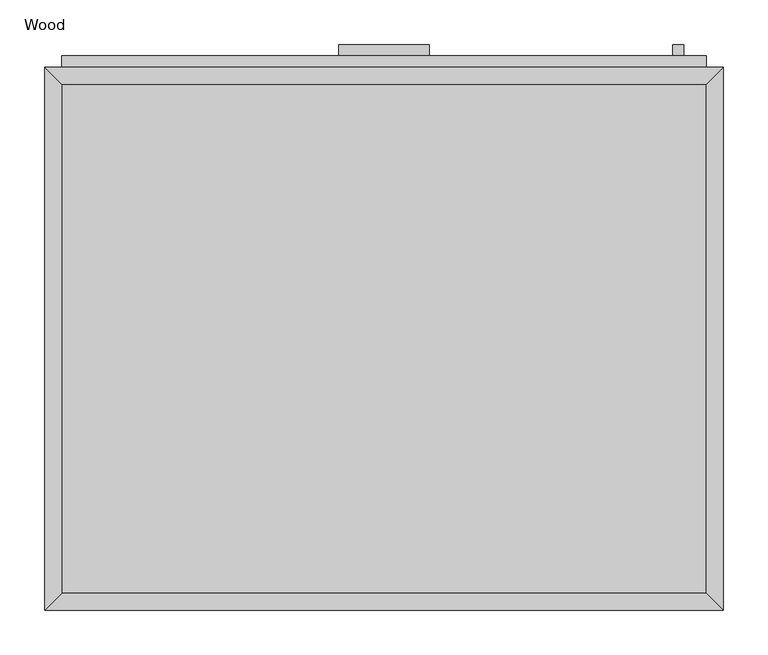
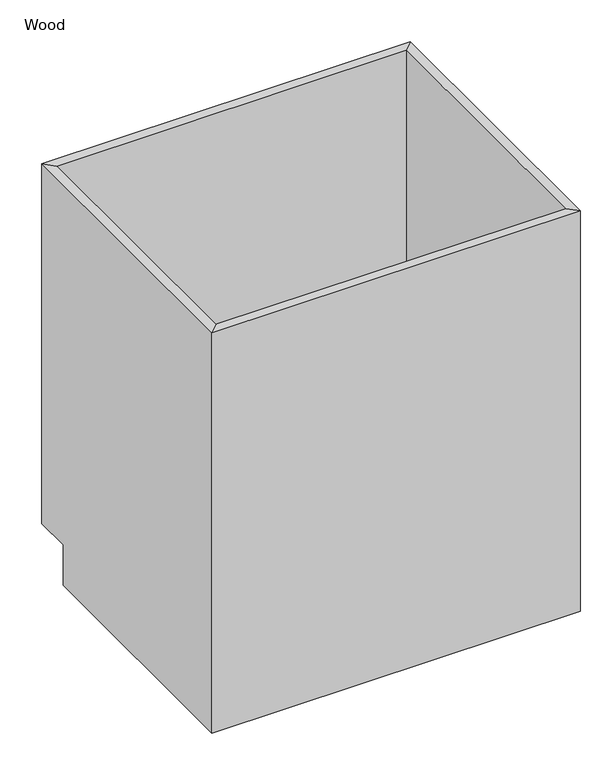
"""IFC4 building model written with IfcOpenShell, lengths in millimetres: furniture geometry, Base Cabinet-Single Door & Drawer : Wood."""

from ifc_helpers import new_model, si_unit, frame, origin, place, context, project, spatial, polyline, outline, extrude, faceted_brep, source, transform, mapped, element, save


def wood_c3b25c64(model_context):
    return source(origin(), model_context, "Body", "SolidModel", [
        faceted_brep([(380.6877049, 590.55, 876.3), (-343.2122951, 590.55, 876.3), (-343.2122951, 590.55, 88.9), (380.6877049, 590.55, 88.9), (399.7377049, 609.6, 876.3), (-362.2622951, 609.6, 876.3), (399.7377049, 609.6, 88.9), (-362.2622951, 609.6, 88.9), (-343.2122951, 19.05, 876.3), (-343.2122951, 19.05, 88.9), (-343.2122951, 533.4, 88.9), (-362.2622951, 0.0, 876.3), (-362.2622951, 533.4, 88.9), (-362.2622951, 533.4, 0.0), (-362.2622951, 0.0, 0.0), (380.6877049, 19.05, 876.3), (380.6877049, 19.05, 88.9), (399.7377049, 0.0, 876.3), (399.7377049, 0.0, 0.0), (380.6877049, 533.4, 88.9), (399.7377049, 533.4, 0.0), (399.7377049, 533.4, 88.9)], [[[0, 1, 2, 3]], [[0, 4, 5, 1]], [[4, 6, 7, 5]], [[2, 7, 6, 3]], [[1, 8, 9, 10, 2]], [[5, 11, 8, 1]], [[7, 12, 13, 14, 11, 5]], [[2, 10, 12, 7]], [[8, 15, 16, 9]], [[11, 17, 15, 8]], [[14, 18, 17, 11]], [[3, 19, 16, 15, 0]], [[0, 15, 17, 4]], [[4, 17, 18, 20, 21, 6]], [[6, 21, 19, 3]], [[10, 9, 16, 19]], [[18, 14, 13, 20]], [[13, 12, 10, 19, 21, 20]]]),
        extrude(outline(polyline([(355.2877049, 635.0), (355.2877049, 622.3), (342.5877049, 622.3), (342.5877049, 635.0), (355.2877049, 635.0)])), frame((0.0, 0.0, 596.9), z_axis=(0.0, 0.0, 1.0), x_axis=(1.0, 0.0, 0.0)), (0.0, 0.0, 1.0), 101.6),
        extrude(outline(polyline([(69.5377049, 635.0), (69.5377049, 622.3), (-32.0622951, 622.3), (-32.0622951, 635.0), (69.5377049, 635.0)])), frame((0.0, 0.0, 819.15), z_axis=(0.0, 0.0, 1.0), x_axis=(1.0, 0.0, 0.0)), (0.0, 0.0, 1.0), 12.7),
        extrude(outline(polyline([(380.6877049, 622.3), (380.6877049, 609.6), (-343.2122951, 609.6), (-343.2122951, 622.3), (380.6877049, 622.3)])), frame((0.0, 0.0, 107.95), z_axis=(0.0, 0.0, 1.0), x_axis=(1.0, 0.0, 0.0)), (0.0, 0.0, 1.0), 628.65),
        extrude(outline(polyline([(380.6877049, 622.3), (380.6877049, 609.6), (-343.2122951, 609.6), (-343.2122951, 622.3), (380.6877049, 622.3)])), frame((0.0, 0.0, 755.65), z_axis=(0.0, 0.0, 1.0), x_axis=(1.0, 0.0, 0.0)), (0.0, 0.0, 1.0), 101.6),
        extrude(outline(polyline([(380.6877049, 19.05), (-343.2122951, 19.05), (-343.2122951, 590.55), (380.6877049, 590.55), (380.6877049, 19.05)])), frame((0.0, 0.0, 88.9), z_axis=(0.0, 0.0, 1.0), x_axis=(1.0, 0.0, 0.0)), (0.0, 0.0, 1.0), 19.05),
    ])


if __name__ == "__main__":
    model = new_model("IFC4")
    model_context = context("Model", 3, world=origin())
    ifc_project = project(units=[si_unit("LENGTHUNIT", "METRE", prefix="MILLI")], contexts=[model_context])
    site = spatial("IfcSite", under=ifc_project)
    building = spatial("IfcBuilding", under=site)
    placement = place(None, origin())
    wood_shape = wood_c3b25c64(model_context)
    element("IfcFurniture", 1, ObjectType="Base Cabinet-Single Door & Drawer : Wood", at=placement, inside=building, context=model_context, shape_type="MappedRepresentation", body=[
        mapped(wood_shape, transform((0.0, 0.0, 0.0), x_axis=(1.0, 0.0, 0.0), y_axis=(0.0, 1.0, 0.0), z_axis=(0.0, 0.0, 1.0))),
    ])
    save(model, "model.ifc")
